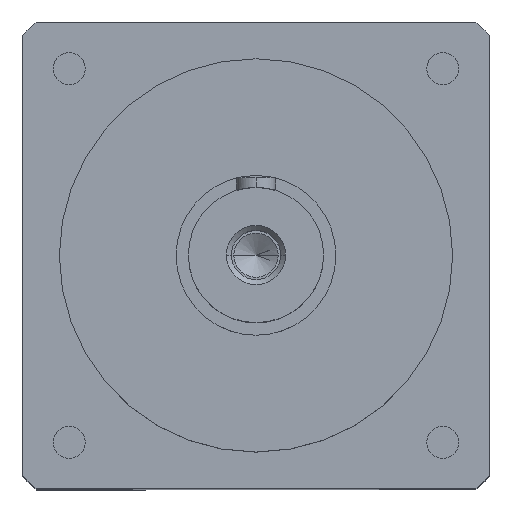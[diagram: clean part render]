
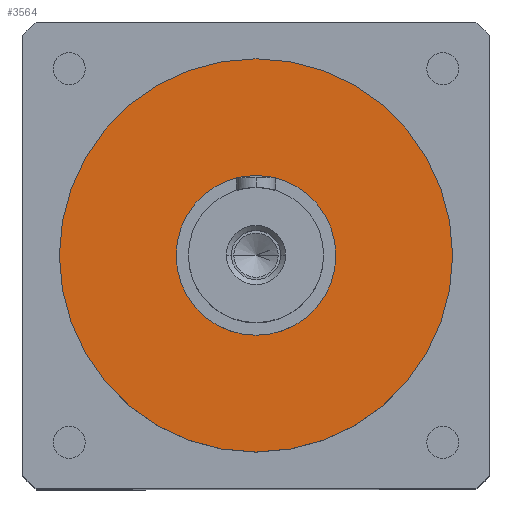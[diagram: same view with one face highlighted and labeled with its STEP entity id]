
A CAD part, top view. The second image highlights one B-rep face of the part: STEP entity #3564.
In plain terms, the highlighted planar face has unit normal (0, 0, 1).
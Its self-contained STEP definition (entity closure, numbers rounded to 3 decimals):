
#148 = EDGE_LOOP ( 'NONE', ( #1599, #3412 ) ) ;
#328 = VERTEX_POINT ( 'NONE', #2522 ) ;
#351 = CIRCLE ( 'NONE', #3329, 80. ) ;
#397 = CARTESIAN_POINT ( 'NONE',  ( 32.5, 0., 20. ) ) ;
#436 = CARTESIAN_POINT ( 'NONE',  ( 0., 0., 20. ) ) ;
#455 = VERTEX_POINT ( 'NONE', #1849 ) ;
#504 = CARTESIAN_POINT ( 'NONE',  ( -32.5, 0., 20. ) ) ;
#525 = EDGE_CURVE ( 'NONE', #455, #328, #351, .T. ) ;
#569 = FACE_OUTER_BOUND ( 'NONE', #148, .T. ) ;
#657 = VERTEX_POINT ( 'NONE', #504 ) ;
#663 = VERTEX_POINT ( 'NONE', #397 ) ;
#678 = EDGE_LOOP ( 'NONE', ( #702, #3046 ) ) ;
#702 = ORIENTED_EDGE ( 'NONE', *, *, #1710, .T. ) ;
#737 = EDGE_CURVE ( 'NONE', #663, #657, #2004, .T. ) ;
#760 = DIRECTION ( 'NONE',  ( -1., 0., 0. ) ) ;
#904 = CARTESIAN_POINT ( 'NONE',  ( 0., 0., 20. ) ) ;
#1049 = AXIS2_PLACEMENT_3D ( 'NONE', #436, #2673, #760 ) ;
#1233 = DIRECTION ( 'NONE',  ( -1., 0., 0. ) ) ;
#1241 = DIRECTION ( 'NONE',  ( -1., 0., 0. ) ) ;
#1251 = DIRECTION ( 'NONE',  ( 0., 0., -1. ) ) ;
#1258 = CARTESIAN_POINT ( 'NONE',  ( 0., 0., 20. ) ) ;
#1521 = AXIS2_PLACEMENT_3D ( 'NONE', #904, #3148, #1233 ) ;
#1540 = FACE_BOUND ( 'NONE', #678, .T. ) ;
#1599 = ORIENTED_EDGE ( 'NONE', *, *, #3181, .F. ) ;
#1710 = EDGE_CURVE ( 'NONE', #657, #663, #2941, .T. ) ;
#1830 = DIRECTION ( 'NONE',  ( 0., 0., -1. ) ) ;
#1849 = CARTESIAN_POINT ( 'NONE',  ( 80., 0., 20. ) ) ;
#1882 = CIRCLE ( 'NONE', #1521, 80. ) ;
#2004 = CIRCLE ( 'NONE', #3510, 32.5 ) ;
#2522 = CARTESIAN_POINT ( 'NONE',  ( -80., 0., 20. ) ) ;
#2673 = DIRECTION ( 'NONE',  ( 0., 0., -1. ) ) ;
#2763 = CARTESIAN_POINT ( 'NONE',  ( 0., 0., 20. ) ) ;
#2941 = CIRCLE ( 'NONE', #1049, 32.5 ) ;
#2966 = CARTESIAN_POINT ( 'NONE',  ( 0., 0., 20. ) ) ;
#3046 = ORIENTED_EDGE ( 'NONE', *, *, #737, .T. ) ;
#3134 = AXIS2_PLACEMENT_3D ( 'NONE', #2763, #1830, #3973 ) ;
#3148 = DIRECTION ( 'NONE',  ( 0., 0., -1. ) ) ;
#3181 = EDGE_CURVE ( 'NONE', #328, #455, #1882, .T. ) ;
#3260 = DIRECTION ( 'NONE',  ( 0., 0., -1. ) ) ;
#3329 = AXIS2_PLACEMENT_3D ( 'NONE', #1258, #1251, #1241 ) ;
#3380 = DIRECTION ( 'NONE',  ( -1., 0., 0. ) ) ;
#3412 = ORIENTED_EDGE ( 'NONE', *, *, #525, .F. ) ;
#3510 = AXIS2_PLACEMENT_3D ( 'NONE', #2966, #3260, #3380 ) ;
#3564 = ADVANCED_FACE ( 'NONE', ( #1540, #569 ), #3713, .F. ) ;
#3713 = PLANE ( 'NONE',  #3134 ) ;
#3973 = DIRECTION ( 'NONE',  ( -1., 0., 0. ) ) ;
